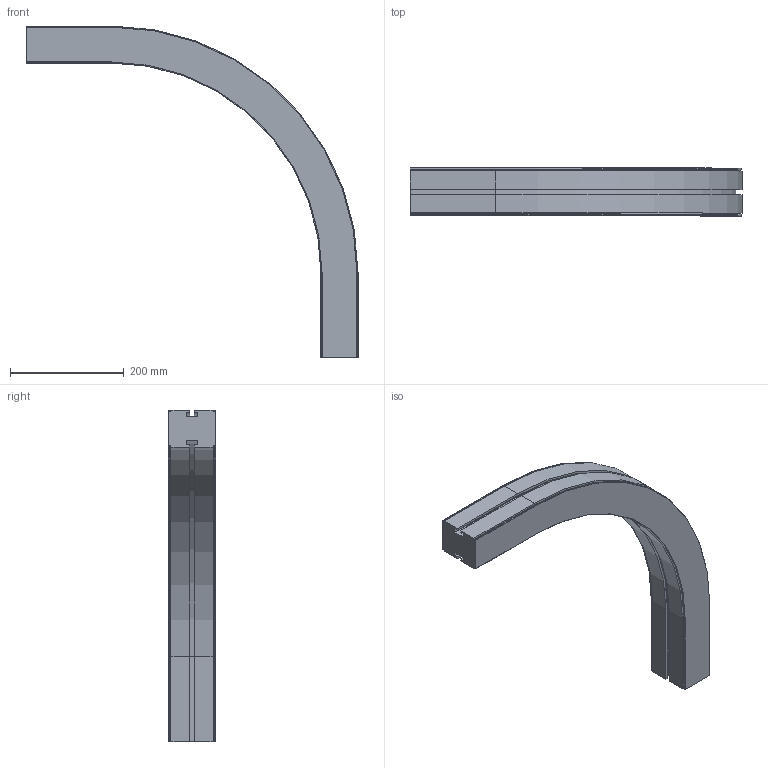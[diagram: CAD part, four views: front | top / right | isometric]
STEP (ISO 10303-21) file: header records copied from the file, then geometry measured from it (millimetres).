
FILE_DESCRIPTION (( 'STEP AP214' ), '1' );
FILE_NAME ('CS SL Horizontaalbocht.65 90° R400.STEP', '2017-02-08T07:35:26', ( '' ), ( '' ), 'SwSTEP 2.0', 'SolidWorks 2016', '' );
FILE_SCHEMA (( 'AUTOMOTIVE_DESIGN' ));
Length unit declared in the file: millimetre
Products named in the file (1): CS SL Horizontaalbocht.65 90° R400
Bounding box: 582.5 x 84 x 582.5 mm (x, y, z)
Volume: 4692306.7 mm3; surface area: 385112.6 mm2
Topology: 1 solids, 1 shells, 98 faces, 272 edges, 176 vertices
Faces by surface type: plane 72, cylinder 18, cone 8
Entity records: 3126 total; most frequent: CARTESIAN_POINT 547, ORIENTED_EDGE 544, DIRECTION 514, EDGE_CURVE 272, LINE 228, VECTOR 228, VERTEX_POINT 176, AXIS2_PLACEMENT_3D 143
